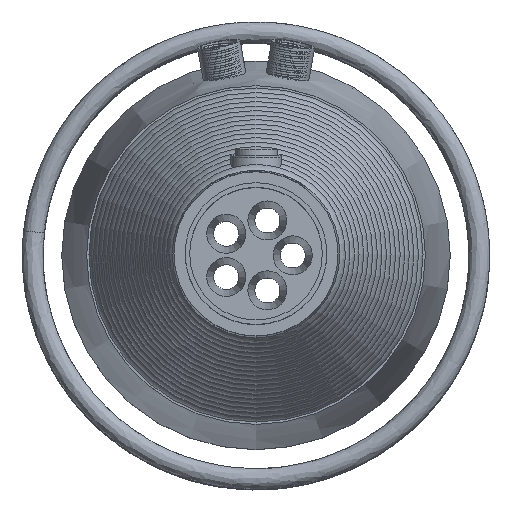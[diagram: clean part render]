
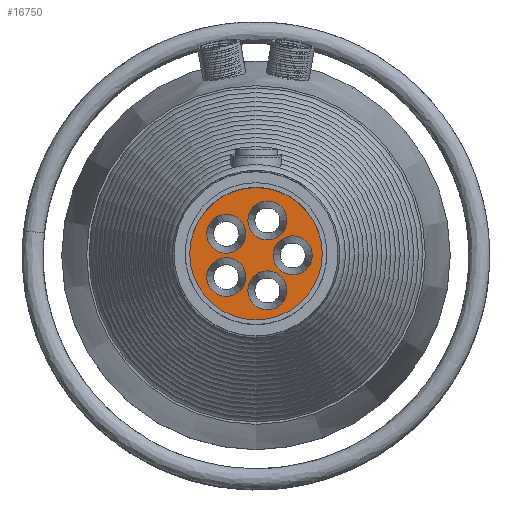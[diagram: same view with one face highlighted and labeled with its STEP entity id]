
A CAD part, top view. The second image highlights one B-rep face of the part: STEP entity #16750.
In plain terms, the highlighted planar face has unit normal (0, 0, 1).
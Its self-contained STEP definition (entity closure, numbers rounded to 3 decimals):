
#205=FACE_BOUND('',#4422,.T.);
#206=FACE_BOUND('',#4423,.T.);
#207=FACE_BOUND('',#4424,.T.);
#208=FACE_BOUND('',#4425,.T.);
#209=FACE_BOUND('',#4426,.T.);
#2567=PLANE('',#18034);
#3438=FACE_OUTER_BOUND('',#4421,.T.);
#4421=EDGE_LOOP('',(#14445));
#4422=EDGE_LOOP('',(#14446));
#4423=EDGE_LOOP('',(#14447));
#4424=EDGE_LOOP('',(#14448));
#4425=EDGE_LOOP('',(#14449));
#4426=EDGE_LOOP('',(#14450));
#5835=CIRCLE('',#18035,100.);
#5836=CIRCLE('',#18036,14.85);
#5837=CIRCLE('',#18037,14.85);
#5838=CIRCLE('',#18038,14.85);
#5839=CIRCLE('',#18039,14.85);
#5840=CIRCLE('',#18040,14.85);
#7421=VERTEX_POINT('',#87166);
#7422=VERTEX_POINT('',#87168);
#7423=VERTEX_POINT('',#87170);
#7424=VERTEX_POINT('',#87172);
#7425=VERTEX_POINT('',#87174);
#7426=VERTEX_POINT('',#87176);
#9772=EDGE_CURVE('',#7421,#7421,#5835,.T.);
#9773=EDGE_CURVE('',#7422,#7422,#5836,.T.);
#9774=EDGE_CURVE('',#7423,#7423,#5837,.T.);
#9775=EDGE_CURVE('',#7424,#7424,#5838,.T.);
#9776=EDGE_CURVE('',#7425,#7425,#5839,.T.);
#9777=EDGE_CURVE('',#7426,#7426,#5840,.T.);
#14445=ORIENTED_EDGE('',*,*,#9772,.F.);
#14446=ORIENTED_EDGE('',*,*,#9773,.T.);
#14447=ORIENTED_EDGE('',*,*,#9774,.T.);
#14448=ORIENTED_EDGE('',*,*,#9775,.T.);
#14449=ORIENTED_EDGE('',*,*,#9776,.T.);
#14450=ORIENTED_EDGE('',*,*,#9777,.T.);
#16750=ADVANCED_FACE('',(#3438,#205,#206,#207,#208,#209),#2567,.F.);
#18034=AXIS2_PLACEMENT_3D('',#87165,#21383,#21384);
#18035=AXIS2_PLACEMENT_3D('',#87167,#21385,#21386);
#18036=AXIS2_PLACEMENT_3D('',#87169,#21387,#21388);
#18037=AXIS2_PLACEMENT_3D('',#87171,#21389,#21390);
#18038=AXIS2_PLACEMENT_3D('',#87173,#21391,#21392);
#18039=AXIS2_PLACEMENT_3D('',#87175,#21393,#21394);
#18040=AXIS2_PLACEMENT_3D('',#87177,#21395,#21396);
#21383=DIRECTION('center_axis',(0.,0.,-1.));
#21384=DIRECTION('ref_axis',(-1.,0.,0.));
#21385=DIRECTION('center_axis',(0.,0.,-1.));
#21386=DIRECTION('ref_axis',(-1.,0.,0.));
#21387=DIRECTION('center_axis',(0.,0.,-1.));
#21388=DIRECTION('ref_axis',(-1.,0.,0.));
#21389=DIRECTION('center_axis',(0.,0.,-1.));
#21390=DIRECTION('ref_axis',(-1.,0.,0.));
#21391=DIRECTION('center_axis',(0.,0.,-1.));
#21392=DIRECTION('ref_axis',(-1.,0.,0.));
#21393=DIRECTION('center_axis',(0.,0.,-1.));
#21394=DIRECTION('ref_axis',(-1.,0.,0.));
#21395=DIRECTION('center_axis',(0.,0.,-1.));
#21396=DIRECTION('ref_axis',(-1.,0.,0.));
#87165=CARTESIAN_POINT('Origin',(0.,0.,79.));
#87166=CARTESIAN_POINT('',(100.,0.,79.));
#87167=CARTESIAN_POINT('Origin',(0.,0.,79.));
#87168=CARTESIAN_POINT('',(23.502,26.63,79.));
#87169=CARTESIAN_POINT('Origin',(8.652,26.63,79.));
#87170=CARTESIAN_POINT('',(23.502,-26.63,79.));
#87171=CARTESIAN_POINT('Origin',(8.652,-26.63,79.));
#87172=CARTESIAN_POINT('',(42.85,0.,79.));
#87173=CARTESIAN_POINT('Origin',(28.,0.,79.));
#87174=CARTESIAN_POINT('',(-7.802,16.458,79.));
#87175=CARTESIAN_POINT('Origin',(-22.652,16.458,79.));
#87176=CARTESIAN_POINT('',(-7.802,-16.458,79.));
#87177=CARTESIAN_POINT('Origin',(-22.652,-16.458,79.));
